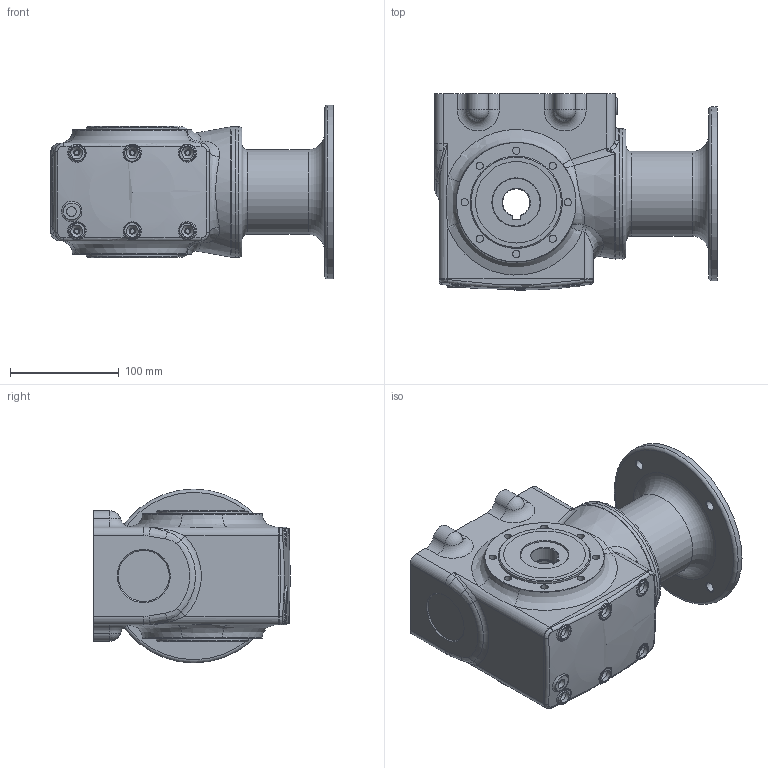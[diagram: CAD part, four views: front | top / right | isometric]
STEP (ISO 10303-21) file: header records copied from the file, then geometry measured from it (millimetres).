
FILE_DESCRIPTION(/* description */ (''),/* implementation_level */ '2;1');
FILE_NAME(/* name */ 'Z:\Dertec\RVS pakket tekeningen\Kasten\FSA + FS serie\FS\FS48\Step Customer\FS48 HA25 AMFL 100B14A #.stp',/* time_stamp */ '2017-12-08T09:53:05+01:00',/* author */ ('Dertec'),/* organization */ (''),/* preprocessor_version */ 'ST-DEVELOPER v16.1',/* originating_system */ 'Autodesk Inventor 2016',/* authorisation */ '');
FILE_SCHEMA (('AUTOMOTIVE_DESIGN { 1 0 10303 214 3 1 1 }'));
Length unit declared in the file: inch
Products named in the file (1): Part22
Bounding box: 260 x 181 x 160 mm (x, y, z)
Volume: 2787632.9 mm3; surface area: 300836.3 mm2
Topology: 1 solids, 7 shells, 463 faces, 1032 edges, 645 vertices
Faces by surface type: cylinder 164, plane 137, bspline 79, torus 40, cone 37, sphere 6
Full cylindrical faces by diameter (mm): 4.134 x6, 4.917 x4, 5.5 x6, 6.647 x15, 7 x4, 8.376 x8, 8.917 x1, 9 x4, 11 x6, 14 x8, 44.8 x1, 44.9 x4, 45 x2, 46 x1, 47 x2, 49.5 x1, 62 x1, 68 x2, 68.4 x1, 69 x1, 71 x1, 72 x1, 75 x3, 78 x3, 80 x1, 84 x1, 85 x2, 86 x1, 110 x1, 114 x1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
Entity records: 18035 total; most frequent: CARTESIAN_POINT 8412, DIRECTION 1845, ORIENTED_EDGE 1670, EDGE_CURVE 835, AXIS2_PLACEMENT_3D 834, EDGE_LOOP 690, VERTEX_POINT 597, STYLED_ITEM 464
